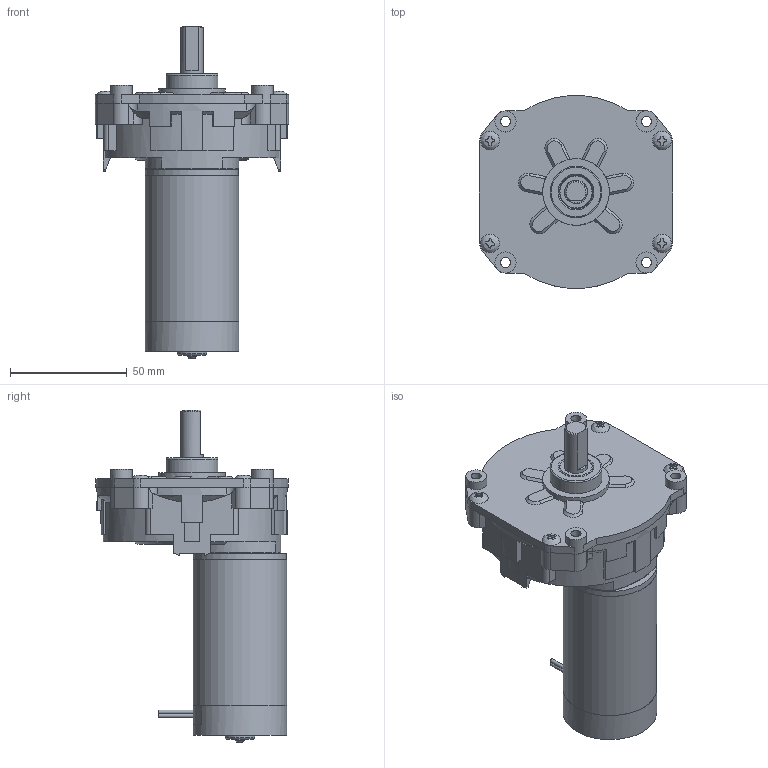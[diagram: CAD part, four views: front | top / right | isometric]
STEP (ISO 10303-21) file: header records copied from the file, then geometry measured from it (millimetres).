
FILE_DESCRIPTION(/* description */ (''),/* implementation_level */ '2;1');
FILE_NAME(/* name */ 'C:\Users\byjeong\Desktop\3D도면\SP46BL.stp',/* time_stamp */ '2015-03-31T15:47:08+09:00',/* author */ ('byjeong'),/* organization */ (''),/* preprocessor_version */ 'ST-DEVELOPER v15.6',/* originating_system */ 'Autodesk Inventor 2015',/* authorisation */ '');
FILE_SCHEMA (('AUTOMOTIVE_DESIGN { 1 0 10303 214 3 1 1 }'));
Length unit declared in the file: millimetre
Products named in the file (11): SP BOX ASSY; DC SP BOX; RM4TYPE_FRONT_HOUSING_; RM4TYPE_PIPE_HOUSING_pi40XL62.4; RM46TYPE_SHAFT; AS 1427 Z - 미터 M3.5 x 5; RM4TYPE_BRUSH_BRAKET_LEAD; RM4TYPE_REAR_HOUSING; REAR_HOUSING__ASS'Y_LEAD; RM46ㅁBL; SP BOX ASSY.ipt
Bounding box: 82.6 x 82.32 x 141.97 mm (x, y, z)
Volume: 101517.6 mm3; surface area: 73255.2 mm2
Topology: 12 solids, 13 shells, 727 faces, 1886 edges, 1229 vertices
Faces by surface type: plane 372, cylinder 192, cone 101, torus 32, bspline 28, sphere 2
Full cylindrical faces by diameter (mm): 1.6 x2, 2.7 x4, 2.8 x4, 3 x14, 3.05 x2, 3.132 x2, 3.4 x2, 3.5 x4, 3.6 x4, 3.7 x2, 3.969 x1, 4 x5, 4.3 x8, 4.5 x4, 5 x2, 6 x1, 6.1 x2, 6.5 x1, 6.65 x1, 9 x4, 9.5 x2, 9.54 x1, 10.5 x1, 12.5 x1, 12.7 x3, 14 x1, 14.3 x2, 14.5 x2, 16.6 x1, 17.6 x1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
Entity records: 22135 total; most frequent: CARTESIAN_POINT 5849, DIRECTION 3312, ORIENTED_EDGE 3236, EDGE_CURVE 1617, AXIS2_PLACEMENT_3D 1316, VERTEX_POINT 1130, EDGE_LOOP 926, FACE_OUTER_BOUND 686
